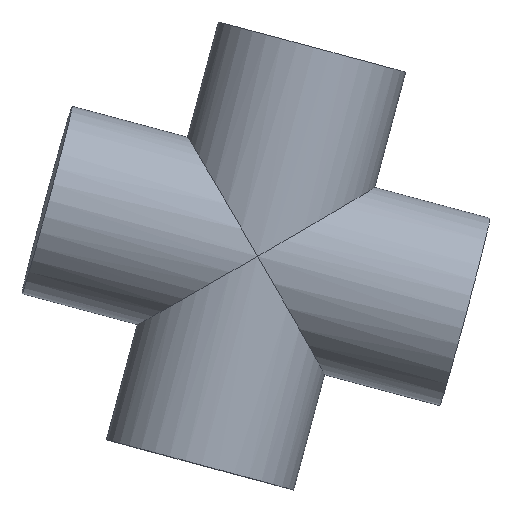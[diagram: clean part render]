
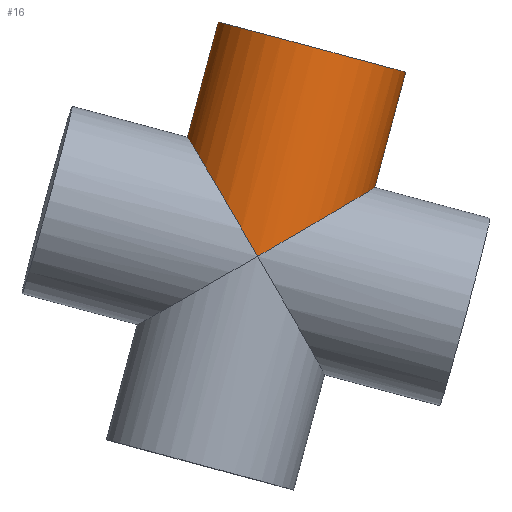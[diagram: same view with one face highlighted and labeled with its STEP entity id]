
A CAD part, top view. The second image highlights one B-rep face of the part: STEP entity #16.
In plain terms, the highlighted cylindrical face has radius 6.5 mm (diameter 13 mm), a partial arc.
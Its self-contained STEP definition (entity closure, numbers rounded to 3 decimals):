
#8 = CARTESIAN_POINT ( 'NONE',  ( 32.274, 2.661, -819.11 ) ) ;
#16 = ADVANCED_FACE ( 'NONE', ( #323 ), #202, .T. ) ;
#34 = VERTEX_POINT ( 'NONE', #248 ) ;
#40 = CARTESIAN_POINT ( 'NONE',  ( 25.172, -8.696, -825.541 ) ) ;
#60 = CARTESIAN_POINT ( 'NONE',  ( 24.919, 4.631, -818.974 ) ) ;
#82 = EDGE_CURVE ( 'NONE', #420, #518, #449, .T. ) ;
#84 = CIRCLE ( 'NONE', #297, 6.5 ) ;
#86 = EDGE_CURVE ( 'NONE', #518, #34, #84, .T. ) ;
#93 = CARTESIAN_POINT ( 'NONE',  ( 31.25, 14.005, -825.541 ) ) ;
#95 = LINE ( 'NONE', #308, #217 ) ;
#104 = CARTESIAN_POINT ( 'NONE',  ( 27.612, -0.032, -819.042 ) ) ;
#166 = CARTESIAN_POINT ( 'NONE',  ( 18.894, -7.015, -825.425 ) ) ;
#168 =( BOUNDED_CURVE ( )  B_SPLINE_CURVE ( 3, ( #257, #460, #8, #219 ),
 .UNSPECIFIED., .F., .T. ) 
 B_SPLINE_CURVE_WITH_KNOTS ( ( 4, 4 ),
 ( 0., 1.571 ),
 .UNSPECIFIED. ) 
 CURVE ( )  GEOMETRIC_REPRESENTATION_ITEM ( )  RATIONAL_B_SPLINE_CURVE ( ( 1., 0.805, 0.805, 1. ) ) 
 REPRESENTATION_ITEM ( '' )  );
#197 = CARTESIAN_POINT ( 'NONE',  ( 27.612, -0.032, -819.042 ) ) ;
#198 = ORIENTED_EDGE ( 'NONE', *, *, #86, .F. ) ;
#202 = CYLINDRICAL_SURFACE ( 'NONE', #366, 6.5 ) ;
#204 = DIRECTION ( 'NONE',  ( 0.966, -0.259, -0.018 ) ) ;
#217 = VECTOR ( 'NONE', #493, 1000. ) ;
#219 = CARTESIAN_POINT ( 'NONE',  ( 27.612, -0.032, -819.042 ) ) ;
#248 = CARTESIAN_POINT ( 'NONE',  ( 37.528, 12.324, -825.657 ) ) ;
#257 = CARTESIAN_POINT ( 'NONE',  ( 35.459, 4.596, -825.657 ) ) ;
#269 = VERTEX_POINT ( 'NONE', #320 ) ;
#272 = ORIENTED_EDGE ( 'NONE', *, *, #527, .T. ) ;
#274 = ORIENTED_EDGE ( 'NONE', *, *, #82, .F. ) ;
#297 = AXIS2_PLACEMENT_3D ( 'NONE', #93, #485, #489 ) ;
#308 = CARTESIAN_POINT ( 'NONE',  ( 31.45, -10.377, -825.657 ) ) ;
#315 = VERTEX_POINT ( 'NONE', #197 ) ;
#320 = CARTESIAN_POINT ( 'NONE',  ( 35.459, 4.596, -825.657 ) ) ;
#323 = FACE_OUTER_BOUND ( 'NONE', #358, .T. ) ;
#326 = DIRECTION ( 'NONE',  ( 0.259, 0.966, 0. ) ) ;
#334 = DIRECTION ( 'NONE',  ( 0.259, 0.966, 0. ) ) ;
#345 = ORIENTED_EDGE ( 'NONE', *, *, #448, .F. ) ;
#358 = EDGE_LOOP ( 'NONE', ( #274, #345, #470, #272, #198 ) ) ;
#366 = AXIS2_PLACEMENT_3D ( 'NONE', #40, #326, #204 ) ;
#412 = CARTESIAN_POINT ( 'NONE',  ( 22.969, 7.94, -821.618 ) ) ;
#414 = CARTESIAN_POINT ( 'NONE',  ( 24.972, 15.685, -825.425 ) ) ;
#420 = VERTEX_POINT ( 'NONE', #512 ) ;
#431 = EDGE_CURVE ( 'NONE', #269, #315, #168, .T. ) ;
#448 = EDGE_CURVE ( 'NONE', #315, #420, #506, .T. ) ;
#449 = LINE ( 'NONE', #166, #462 ) ;
#460 = CARTESIAN_POINT ( 'NONE',  ( 35.525, 4.578, -821.85 ) ) ;
#462 = VECTOR ( 'NONE', #334, 1000. ) ;
#470 = ORIENTED_EDGE ( 'NONE', *, *, #431, .F. ) ;
#485 = DIRECTION ( 'NONE',  ( 0.259, 0.966, 0. ) ) ;
#489 = DIRECTION ( 'NONE',  ( 0.965, -0.258, 0.044 ) ) ;
#493 = DIRECTION ( 'NONE',  ( 0.259, 0.966, 0. ) ) ;
#496 = CARTESIAN_POINT ( 'NONE',  ( 22.903, 7.958, -825.425 ) ) ;
#506 =( BOUNDED_CURVE ( )  B_SPLINE_CURVE ( 3, ( #104, #60, #412, #496 ),
 .UNSPECIFIED., .F., .T. ) 
 B_SPLINE_CURVE_WITH_KNOTS ( ( 4, 4 ),
 ( 4.712, 6.283 ),
 .UNSPECIFIED. ) 
 CURVE ( )  GEOMETRIC_REPRESENTATION_ITEM ( )  RATIONAL_B_SPLINE_CURVE ( ( 1., 0.805, 0.805, 1. ) ) 
 REPRESENTATION_ITEM ( '' )  );
#512 = CARTESIAN_POINT ( 'NONE',  ( 22.903, 7.958, -825.425 ) ) ;
#518 = VERTEX_POINT ( 'NONE', #414 ) ;
#527 = EDGE_CURVE ( 'NONE', #269, #34, #95, .T. ) ;
